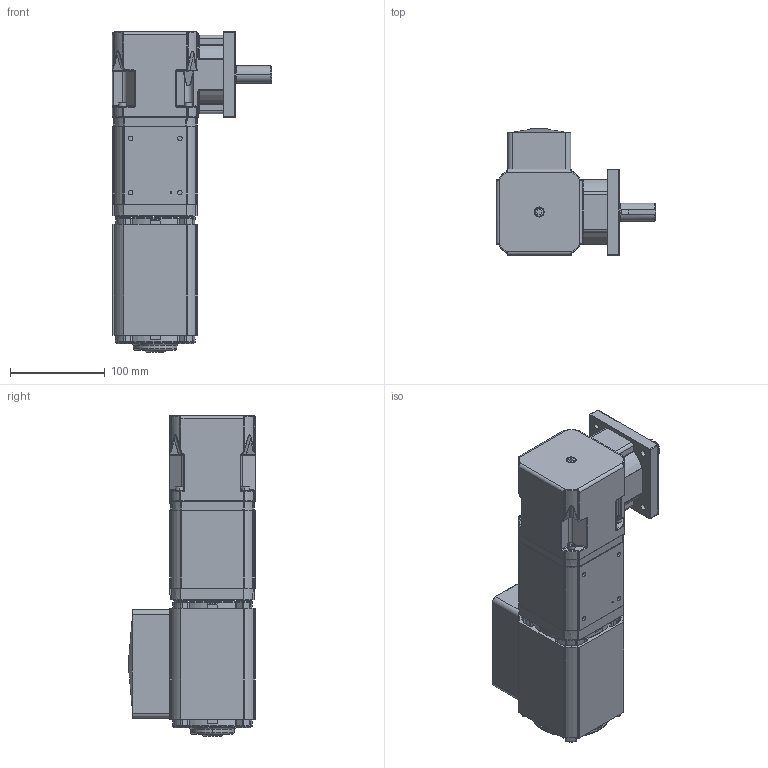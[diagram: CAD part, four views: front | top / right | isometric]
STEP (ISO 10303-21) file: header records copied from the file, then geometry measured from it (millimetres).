
FILE_DESCRIPTION (( 'STEP AP203' ), '1' );
FILE_NAME ('OUTLINE AC8040NV-RP7300_2S.STEP', '2006-09-22T21:07:21', ( 'Groschopp' ), ( 'Groschopp' ), 'SwSTEP 2.0', 'SolidWorks 2007', '' );
FILE_SCHEMA (( 'CONFIG_CONTROL_DESIGN' ));
Products named in the file (1): OUTLINE AC8040NV-RP7300_2S
Bounding box: 168.35 x 133.71 x 338.23 mm (x, y, z)
Surface area: 246931.7 mm2 (no closed solid volume)
Topology: 0 solids, 50 shells, 1311 faces, 4098 edges, 2730 vertices
Faces by surface type: cylinder 439, plane 436, bspline 163, torus 127, cone 100, sphere 46
Entity records: 51751 total; most frequent: CARTESIAN_POINT 16833, DIRECTION 7350, ORIENTED_EDGE 6820, EDGE_CURVE 4068, AXIS2_PLACEMENT_3D 2844, VERTEX_POINT 2730, CIRCLE 1695, VECTOR 1662
